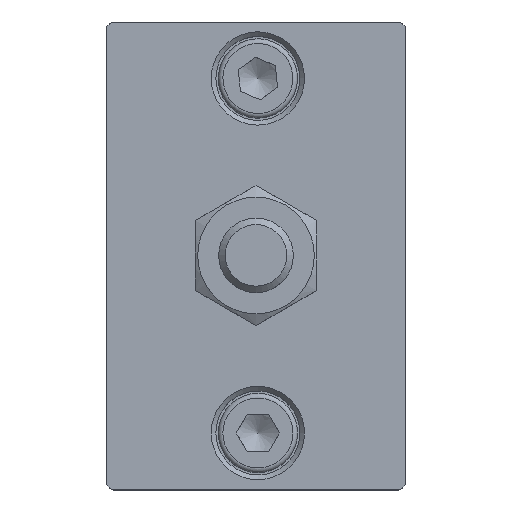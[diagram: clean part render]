
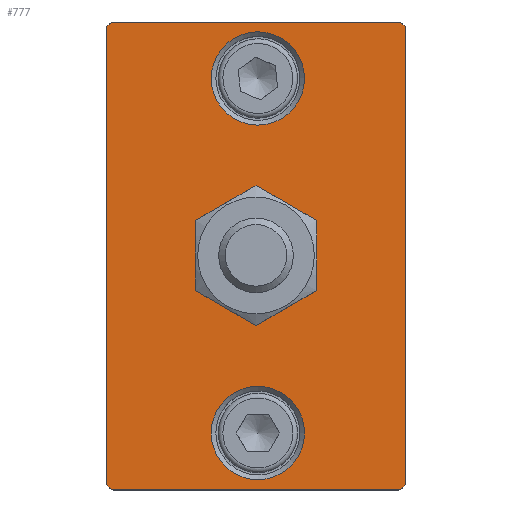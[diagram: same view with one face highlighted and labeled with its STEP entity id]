
A CAD part, top view. The second image highlights one B-rep face of the part: STEP entity #777.
In plain terms, the highlighted planar face has unit normal (0, 0, 1).
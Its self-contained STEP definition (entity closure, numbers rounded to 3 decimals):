
#612=CARTESIAN_POINT('',(-11.983,24.55,14.));
#613=VERTEX_POINT('',#612);
#614=CARTESIAN_POINT('',(-11.483,25.05,14.));
#615=VERTEX_POINT('',#614);
#616=CARTESIAN_POINT('',(-11.983,24.55,14.));
#617=DIRECTION('',(0.707,0.707,0.0));
#618=VECTOR('',#617,0.707);
#619=LINE('',#616,#618);
#620=EDGE_CURVE('',#613,#615,#619,.T.);
#655=CARTESIAN_POINT('',(4.017,0.,14.));
#656=DIRECTION('',(0.0,0.0,1.0));
#657=DIRECTION('',(1.0,0.0,0.0));
#658=AXIS2_PLACEMENT_3D('',#655,#656,#657);
#659=PLANE('',#658);
#660=ORIENTED_EDGE('',*,*,#620,.F.);
#661=CARTESIAN_POINT('',(-11.983,-24.55,14.));
#662=VERTEX_POINT('',#661);
#663=CARTESIAN_POINT('',(-11.983,-24.55,14.));
#664=DIRECTION('',(0.0,1.0,0.0));
#665=VECTOR('',#664,49.1);
#666=LINE('',#663,#665);
#667=EDGE_CURVE('',#662,#613,#666,.T.);
#668=ORIENTED_EDGE('',*,*,#667,.F.);
#669=CARTESIAN_POINT('',(-11.483,-25.05,14.));
#670=VERTEX_POINT('',#669);
#671=CARTESIAN_POINT('',(-11.483,-25.05,14.));
#672=DIRECTION('',(-0.707,0.707,0.0));
#673=VECTOR('',#672,0.707);
#674=LINE('',#671,#673);
#675=EDGE_CURVE('',#670,#662,#674,.T.);
#676=ORIENTED_EDGE('',*,*,#675,.F.);
#677=CARTESIAN_POINT('',(19.517,-25.05,14.));
#678=VERTEX_POINT('',#677);
#679=CARTESIAN_POINT('',(19.517,-25.05,14.));
#680=DIRECTION('',(-1.0,0.0,0.0));
#681=VECTOR('',#680,31.);
#682=LINE('',#679,#681);
#683=EDGE_CURVE('',#678,#670,#682,.T.);
#684=ORIENTED_EDGE('',*,*,#683,.F.);
#685=CARTESIAN_POINT('',(20.017,-24.55,14.));
#686=VERTEX_POINT('',#685);
#687=CARTESIAN_POINT('',(20.017,-24.55,14.));
#688=DIRECTION('',(-0.707,-0.707,0.0));
#689=VECTOR('',#688,0.707);
#690=LINE('',#687,#689);
#691=EDGE_CURVE('',#686,#678,#690,.T.);
#692=ORIENTED_EDGE('',*,*,#691,.F.);
#693=CARTESIAN_POINT('',(20.017,24.55,14.));
#694=VERTEX_POINT('',#693);
#695=CARTESIAN_POINT('',(20.017,24.55,14.));
#696=DIRECTION('',(0.0,-1.0,0.0));
#697=VECTOR('',#696,49.1);
#698=LINE('',#695,#697);
#699=EDGE_CURVE('',#694,#686,#698,.T.);
#700=ORIENTED_EDGE('',*,*,#699,.F.);
#701=CARTESIAN_POINT('',(19.517,25.05,14.));
#702=VERTEX_POINT('',#701);
#703=CARTESIAN_POINT('',(19.517,25.05,14.));
#704=DIRECTION('',(0.707,-0.707,0.0));
#705=VECTOR('',#704,0.707);
#706=LINE('',#703,#705);
#707=EDGE_CURVE('',#702,#694,#706,.T.);
#708=ORIENTED_EDGE('',*,*,#707,.F.);
#709=CARTESIAN_POINT('',(-11.483,25.05,14.));
#710=DIRECTION('',(1.0,0.0,0.0));
#711=VECTOR('',#710,31.);
#712=LINE('',#709,#711);
#713=EDGE_CURVE('',#615,#702,#712,.T.);
#714=ORIENTED_EDGE('',*,*,#713,.F.);
#715=EDGE_LOOP('',(#660,#668,#676,#684,#692,#700,#708,#714));
#716=FACE_OUTER_BOUND('',#715,.T.);
#717=CARTESIAN_POINT('',(9.217,19.0,14.));
#718=VERTEX_POINT('',#717);
#719=CARTESIAN_POINT('',(4.217,19.0,14.));
#720=DIRECTION('',(0.0,0.0,1.0));
#721=DIRECTION('',(-1.0,0.0,0.0));
#722=AXIS2_PLACEMENT_3D('',#719,#720,#721);
#723=CIRCLE('',#722,5.0);
#724=EDGE_CURVE('',#718,#718,#723,.T.);
#725=ORIENTED_EDGE('',*,*,#724,.F.);
#726=EDGE_LOOP('',(#725));
#727=FACE_BOUND('',#726,.T.);
#728=CARTESIAN_POINT('',(4.017,5.0,14.));
#729=VERTEX_POINT('',#728);
#730=CARTESIAN_POINT('',(9.017,0.,14.0));
#731=VERTEX_POINT('',#730);
#732=CARTESIAN_POINT('',(4.017,0.0,14.));
#733=DIRECTION('',(0.0,0.0,-1.0));
#734=DIRECTION('',(0.0,1.0,0.0));
#735=AXIS2_PLACEMENT_3D('',#732,#733,#734);
#736=CIRCLE('',#735,5.);
#737=EDGE_CURVE('',#729,#731,#736,.T.);
#738=ORIENTED_EDGE('',*,*,#737,.T.);
#739=CARTESIAN_POINT('',(4.017,-5.,14.0));
#740=VERTEX_POINT('',#739);
#741=CARTESIAN_POINT('',(4.017,0.0,14.));
#742=DIRECTION('',(0.0,0.0,-1.0));
#743=DIRECTION('',(0.0,1.0,0.0));
#744=AXIS2_PLACEMENT_3D('',#741,#742,#743);
#745=CIRCLE('',#744,5.);
#746=EDGE_CURVE('',#731,#740,#745,.T.);
#747=ORIENTED_EDGE('',*,*,#746,.T.);
#748=CARTESIAN_POINT('',(-0.983,0.,14.0));
#749=VERTEX_POINT('',#748);
#750=CARTESIAN_POINT('',(4.017,0.0,14.));
#751=DIRECTION('',(0.0,0.0,-1.0));
#752=DIRECTION('',(0.0,1.0,0.0));
#753=AXIS2_PLACEMENT_3D('',#750,#751,#752);
#754=CIRCLE('',#753,5.);
#755=EDGE_CURVE('',#740,#749,#754,.T.);
#756=ORIENTED_EDGE('',*,*,#755,.T.);
#757=CARTESIAN_POINT('',(4.017,0.0,14.));
#758=DIRECTION('',(0.0,0.0,-1.0));
#759=DIRECTION('',(0.0,1.0,0.0));
#760=AXIS2_PLACEMENT_3D('',#757,#758,#759);
#761=CIRCLE('',#760,5.);
#762=EDGE_CURVE('',#749,#729,#761,.T.);
#763=ORIENTED_EDGE('',*,*,#762,.T.);
#764=EDGE_LOOP('',(#738,#747,#756,#763));
#765=FACE_BOUND('',#764,.T.);
#766=CARTESIAN_POINT('',(9.217,-19.0,14.));
#767=VERTEX_POINT('',#766);
#768=CARTESIAN_POINT('',(4.217,-19.0,14.));
#769=DIRECTION('',(0.0,0.0,1.0));
#770=DIRECTION('',(-1.0,0.0,0.0));
#771=AXIS2_PLACEMENT_3D('',#768,#769,#770);
#772=CIRCLE('',#771,5.0);
#773=EDGE_CURVE('',#767,#767,#772,.T.);
#774=ORIENTED_EDGE('',*,*,#773,.F.);
#775=EDGE_LOOP('',(#774));
#776=FACE_BOUND('',#775,.T.);
#777=ADVANCED_FACE('',(#716,#727,#765,#776),#659,.T.);
